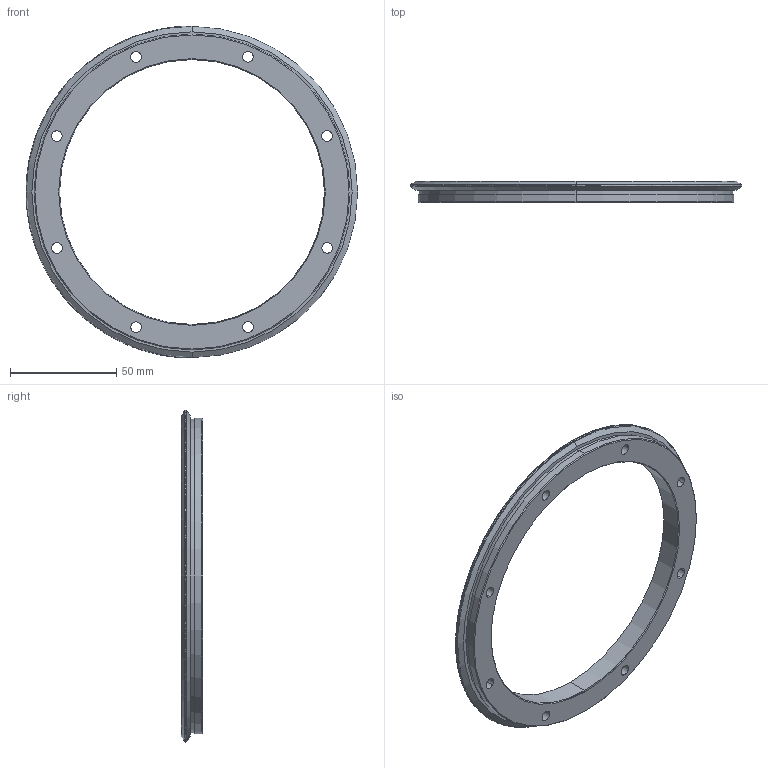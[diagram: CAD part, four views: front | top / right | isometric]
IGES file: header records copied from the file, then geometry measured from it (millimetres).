
Start section: 3D InterOp IGES (v. 2019 1.0.2), Spatial Corp. Copyright (c) 1999-2017.
Global section: file name: REV 156 R360.igs; native system: Spatial Corp.; preprocessor: 3D InterOp GENERIC/IGES 3.0; author: Noname; organization: Noname; date: 20220719.140127; units: millimetre
Bounding box: 156.2 x 10 x 156.2 mm (x, y, z)
Surface area: 26119.6 mm2 (no closed solid volume)
Topology: 0 solids, 0 shells, 60 faces, 276 edges, 274 vertices
Faces by surface type: revolution 48, extrusion 12
